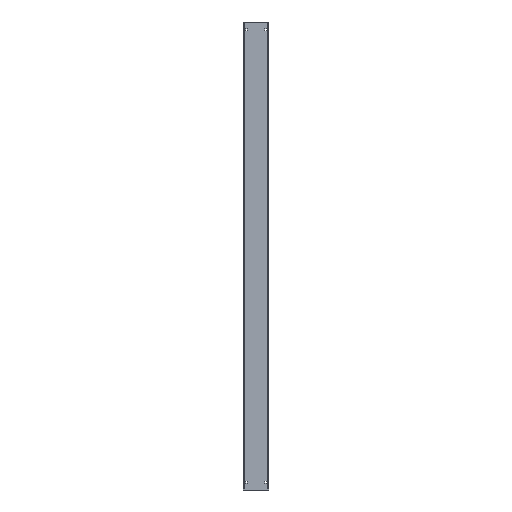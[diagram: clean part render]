
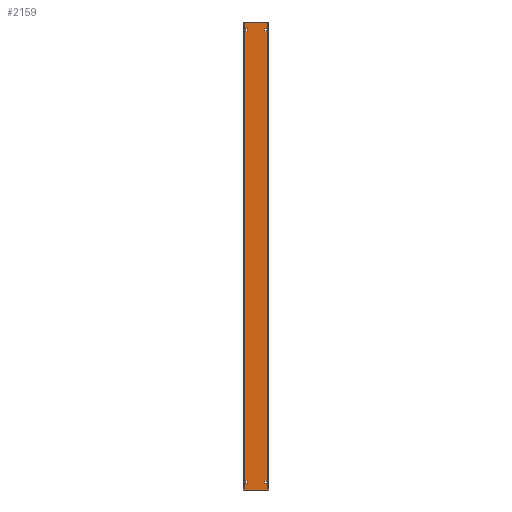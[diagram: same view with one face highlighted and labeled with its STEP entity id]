
A CAD part, left-side view. The second image highlights one B-rep face of the part: STEP entity #2159.
In plain terms, the highlighted planar face has unit normal (-1, 0, 0) as drawn and (1, 0, 0) by its records, which use the part's own axes.
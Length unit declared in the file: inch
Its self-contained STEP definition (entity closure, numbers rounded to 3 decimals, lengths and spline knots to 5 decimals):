
#1417=DIRECTION('',(0.,-1.,0.));
#1418=VECTOR('',#1417,5.97);
#1419=CARTESIAN_POINT('',(0.15,4.943,0.));
#1420=LINE('',#1419,#1418);
#1534=DIRECTION('',(0.,0.,1.));
#1535=VECTOR('',#1534,118.1);
#1536=CARTESIAN_POINT('',(0.15,4.943,-118.1));
#1537=LINE('',#1536,#1535);
#1538=DIRECTION('',(0.,0.,1.));
#1539=VECTOR('',#1538,118.1);
#1540=CARTESIAN_POINT('',(0.15,-1.027,-118.1));
#1541=LINE('',#1540,#1539);
#1542=DIRECTION('',(0.,-1.,0.));
#1543=VECTOR('',#1542,0.41);
#1544=CARTESIAN_POINT('',(0.15,4.58,-1.725));
#1545=LINE('',#1544,#1543);
#1546=DIRECTION('',(0.,0.,-1.));
#1547=VECTOR('',#1546,0.47);
#1548=CARTESIAN_POINT('',(0.15,4.17,-1.725));
#1549=LINE('',#1548,#1547);
#1550=DIRECTION('',(0.,1.,0.));
#1551=VECTOR('',#1550,0.41);
#1552=CARTESIAN_POINT('',(0.15,4.17,-2.195));
#1553=LINE('',#1552,#1551);
#1554=DIRECTION('',(0.,0.,1.));
#1555=VECTOR('',#1554,0.47);
#1556=CARTESIAN_POINT('',(0.15,4.58,-2.195));
#1557=LINE('',#1556,#1555);
#1558=DIRECTION('',(0.,-1.,0.));
#1559=VECTOR('',#1558,0.41);
#1560=CARTESIAN_POINT('',(0.15,-0.255,-1.725));
#1561=LINE('',#1560,#1559);
#1562=DIRECTION('',(0.,0.,-1.));
#1563=VECTOR('',#1562,0.47);
#1564=CARTESIAN_POINT('',(0.15,-0.665,-1.725));
#1565=LINE('',#1564,#1563);
#1566=DIRECTION('',(0.,1.,0.));
#1567=VECTOR('',#1566,0.41);
#1568=CARTESIAN_POINT('',(0.15,-0.665,-2.195));
#1569=LINE('',#1568,#1567);
#1570=DIRECTION('',(0.,0.,1.));
#1571=VECTOR('',#1570,0.47);
#1572=CARTESIAN_POINT('',(0.15,-0.255,-2.195));
#1573=LINE('',#1572,#1571);
#1574=DIRECTION('',(0.,0.,1.));
#1575=VECTOR('',#1574,0.47);
#1576=CARTESIAN_POINT('',(0.15,4.58,-116.375));
#1577=LINE('',#1576,#1575);
#1578=DIRECTION('',(0.,-1.,0.));
#1579=VECTOR('',#1578,0.41);
#1580=CARTESIAN_POINT('',(0.15,4.58,-115.905));
#1581=LINE('',#1580,#1579);
#1582=DIRECTION('',(0.,0.,-1.));
#1583=VECTOR('',#1582,0.47);
#1584=CARTESIAN_POINT('',(0.15,4.17,-115.905));
#1585=LINE('',#1584,#1583);
#1586=DIRECTION('',(0.,1.,0.));
#1587=VECTOR('',#1586,0.41);
#1588=CARTESIAN_POINT('',(0.15,4.17,-116.375));
#1589=LINE('',#1588,#1587);
#1590=DIRECTION('',(0.,0.,1.));
#1591=VECTOR('',#1590,0.47);
#1592=CARTESIAN_POINT('',(0.15,-0.255,-116.375));
#1593=LINE('',#1592,#1591);
#1594=DIRECTION('',(0.,-1.,0.));
#1595=VECTOR('',#1594,0.41);
#1596=CARTESIAN_POINT('',(0.15,-0.255,-115.905));
#1597=LINE('',#1596,#1595);
#1598=DIRECTION('',(0.,0.,-1.));
#1599=VECTOR('',#1598,0.47);
#1600=CARTESIAN_POINT('',(0.15,-0.665,-115.905));
#1601=LINE('',#1600,#1599);
#1602=DIRECTION('',(0.,1.,0.));
#1603=VECTOR('',#1602,0.41);
#1604=CARTESIAN_POINT('',(0.15,-0.665,-116.375));
#1605=LINE('',#1604,#1603);
#1687=DIRECTION('',(0.,-1.,0.));
#1688=VECTOR('',#1687,5.97);
#1689=CARTESIAN_POINT('',(0.15,4.943,-118.1));
#1690=LINE('',#1689,#1688);
#1856=CARTESIAN_POINT('',(0.15,-1.027,-118.1));
#1857=CARTESIAN_POINT('',(0.15,-1.027,0.));
#1858=VERTEX_POINT('',#1856);
#1859=VERTEX_POINT('',#1857);
#1892=CARTESIAN_POINT('',(0.15,4.943,-118.1));
#1893=CARTESIAN_POINT('',(0.15,4.943,0.));
#1894=VERTEX_POINT('',#1892);
#1895=VERTEX_POINT('',#1893);
#1912=CARTESIAN_POINT('',(0.15,4.58,-1.725));
#1913=CARTESIAN_POINT('',(0.15,4.17,-1.725));
#1914=VERTEX_POINT('',#1912);
#1915=VERTEX_POINT('',#1913);
#1916=CARTESIAN_POINT('',(0.15,4.17,-2.195));
#1917=VERTEX_POINT('',#1916);
#1918=CARTESIAN_POINT('',(0.15,4.58,-2.195));
#1919=VERTEX_POINT('',#1918);
#1920=CARTESIAN_POINT('',(0.15,-0.255,-1.725));
#1921=CARTESIAN_POINT('',(0.15,-0.665,-1.725));
#1922=VERTEX_POINT('',#1920);
#1923=VERTEX_POINT('',#1921);
#1924=CARTESIAN_POINT('',(0.15,-0.665,-2.195));
#1925=VERTEX_POINT('',#1924);
#1926=CARTESIAN_POINT('',(0.15,-0.255,-2.195));
#1927=VERTEX_POINT('',#1926);
#1944=CARTESIAN_POINT('',(0.15,4.58,-116.375));
#1945=CARTESIAN_POINT('',(0.15,4.58,-115.905));
#1946=VERTEX_POINT('',#1944);
#1947=VERTEX_POINT('',#1945);
#1948=CARTESIAN_POINT('',(0.15,4.17,-115.905));
#1949=VERTEX_POINT('',#1948);
#1950=CARTESIAN_POINT('',(0.15,4.17,-116.375));
#1951=VERTEX_POINT('',#1950);
#1952=CARTESIAN_POINT('',(0.15,-0.255,-116.375));
#1953=CARTESIAN_POINT('',(0.15,-0.255,-115.905));
#1954=VERTEX_POINT('',#1952);
#1955=VERTEX_POINT('',#1953);
#1956=CARTESIAN_POINT('',(0.15,-0.665,-115.905));
#1957=VERTEX_POINT('',#1956);
#1958=CARTESIAN_POINT('',(0.15,-0.665,-116.375));
#1959=VERTEX_POINT('',#1958);
#2106=CARTESIAN_POINT('',(0.15,-1.175,0.));
#2107=DIRECTION('',(1.,0.,0.));
#2108=DIRECTION('',(0.,1.,0.));
#2109=AXIS2_PLACEMENT_3D('',#2106,#2107,#2108);
#2110=PLANE('',#2109);
#2112=ORIENTED_EDGE('',*,*,#2111,.F.);
#2114=ORIENTED_EDGE('',*,*,#2113,.T.);
#2116=ORIENTED_EDGE('',*,*,#2115,.T.);
#2117=ORIENTED_EDGE('',*,*,#2015,.F.);
#2118=EDGE_LOOP('',(#2112,#2114,#2116,#2117));
#2119=FACE_OUTER_BOUND('',#2118,.F.);
#2121=ORIENTED_EDGE('',*,*,#2120,.T.);
#2123=ORIENTED_EDGE('',*,*,#2122,.T.);
#2125=ORIENTED_EDGE('',*,*,#2124,.T.);
#2127=ORIENTED_EDGE('',*,*,#2126,.T.);
#2128=EDGE_LOOP('',(#2121,#2123,#2125,#2127));
#2129=FACE_BOUND('',#2128,.F.);
#2131=ORIENTED_EDGE('',*,*,#2130,.T.);
#2133=ORIENTED_EDGE('',*,*,#2132,.T.);
#2135=ORIENTED_EDGE('',*,*,#2134,.T.);
#2137=ORIENTED_EDGE('',*,*,#2136,.T.);
#2138=EDGE_LOOP('',(#2131,#2133,#2135,#2137));
#2139=FACE_BOUND('',#2138,.F.);
#2140=ORIENTED_EDGE('',*,*,#2096,.T.);
#2142=ORIENTED_EDGE('',*,*,#2141,.T.);
#2144=ORIENTED_EDGE('',*,*,#2143,.T.);
#2146=ORIENTED_EDGE('',*,*,#2145,.T.);
#2147=EDGE_LOOP('',(#2140,#2142,#2144,#2146));
#2148=FACE_BOUND('',#2147,.F.);
#2150=ORIENTED_EDGE('',*,*,#2149,.T.);
#2152=ORIENTED_EDGE('',*,*,#2151,.T.);
#2154=ORIENTED_EDGE('',*,*,#2153,.T.);
#2156=ORIENTED_EDGE('',*,*,#2155,.T.);
#2157=EDGE_LOOP('',(#2150,#2152,#2154,#2156));
#2158=FACE_BOUND('',#2157,.F.);
#2159=ADVANCED_FACE('',(#2119,#2129,#2139,#2148,#2158),#2110,.T.);
#2015=EDGE_CURVE('',#1895,#1859,#1420,.T.);
#2096=EDGE_CURVE('',#1946,#1947,#1577,.T.);
#2111=EDGE_CURVE('',#1894,#1895,#1537,.T.);
#2113=EDGE_CURVE('',#1894,#1858,#1690,.T.);
#2115=EDGE_CURVE('',#1858,#1859,#1541,.T.);
#2120=EDGE_CURVE('',#1914,#1915,#1545,.T.);
#2122=EDGE_CURVE('',#1915,#1917,#1549,.T.);
#2124=EDGE_CURVE('',#1917,#1919,#1553,.T.);
#2126=EDGE_CURVE('',#1919,#1914,#1557,.T.);
#2130=EDGE_CURVE('',#1922,#1923,#1561,.T.);
#2132=EDGE_CURVE('',#1923,#1925,#1565,.T.);
#2134=EDGE_CURVE('',#1925,#1927,#1569,.T.);
#2136=EDGE_CURVE('',#1927,#1922,#1573,.T.);
#2141=EDGE_CURVE('',#1947,#1949,#1581,.T.);
#2143=EDGE_CURVE('',#1949,#1951,#1585,.T.);
#2145=EDGE_CURVE('',#1951,#1946,#1589,.T.);
#2149=EDGE_CURVE('',#1954,#1955,#1593,.T.);
#2151=EDGE_CURVE('',#1955,#1957,#1597,.T.);
#2153=EDGE_CURVE('',#1957,#1959,#1601,.T.);
#2155=EDGE_CURVE('',#1959,#1954,#1605,.T.);
